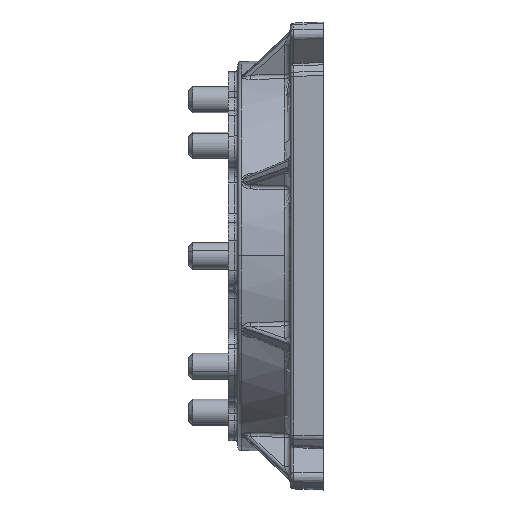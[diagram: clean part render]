
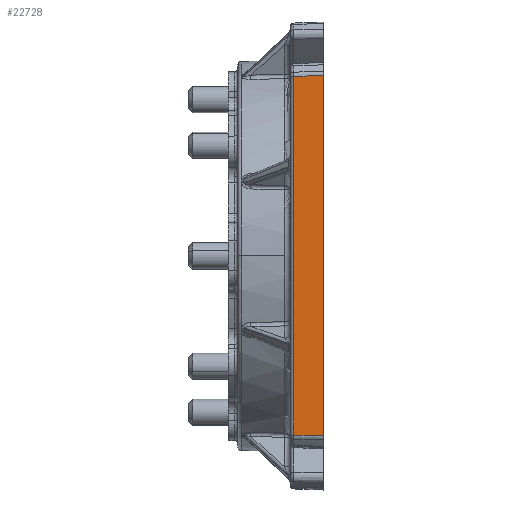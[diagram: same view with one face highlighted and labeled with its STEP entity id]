
A CAD part, top view. The second image highlights one B-rep face of the part: STEP entity #22728.
In plain terms, the highlighted planar face has unit normal (-0.035, 0, 0.999).
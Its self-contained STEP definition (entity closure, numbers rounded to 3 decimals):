
#2210 = VERTEX_POINT ( 'NONE', #26020 ) ;
#2669 = B_SPLINE_CURVE_WITH_KNOTS ( 'NONE', 3,
 ( #32143, #5697, #36137, #18693, #11755, #38825, #19352 ),
 .UNSPECIFIED., .F., .F.,
 ( 4, 3, 4 ),
 ( 0.001, 0.005, 0.01 ),
 .UNSPECIFIED. ) ;
#3060 = PLANE ( 'NONE',  #29265 ) ;
#5697 = CARTESIAN_POINT ( 'NONE',  ( 28.372, 54.591, 70.926 ) ) ;
#9106 = VERTEX_POINT ( 'NONE', #39864 ) ;
#11601 = LINE ( 'NONE', #22102, #16336 ) ;
#11755 = CARTESIAN_POINT ( 'NONE',  ( 23.982, 54.538, 70.772 ) ) ;
#12683 = CARTESIAN_POINT ( 'NONE',  ( 20.715, -54.498, 70.658 ) ) ;
#12908 = CARTESIAN_POINT ( 'NONE',  ( 29.75, 54.608, 70.974 ) ) ;
#13781 = DIRECTION ( 'NONE',  ( 0.035, 0., -0.999 ) ) ;
#14805 = EDGE_CURVE ( 'NONE', #9106, #2210, #16486, .T. ) ;
#14830 = CARTESIAN_POINT ( 'NONE',  ( 29.75, -72.778, 70.974 ) ) ;
#15369 = CARTESIAN_POINT ( 'NONE',  ( 23.982, -54.538, 70.772 ) ) ;
#15448 = EDGE_LOOP ( 'NONE', ( #34030, #43067, #22789, #21007 ) ) ;
#15707 = VECTOR ( 'NONE', #32092, 1000. ) ;
#16336 = VECTOR ( 'NONE', #35976, 1000. ) ;
#16486 = B_SPLINE_CURVE_WITH_KNOTS ( 'NONE', 3,
 ( #12683, #36620, #15369, #26338, #29056, #33285, #19179 ),
 .UNSPECIFIED., .F., .F.,
 ( 4, 3, 4 ),
 ( 0., 0.005, 0.009 ),
 .UNSPECIFIED. ) ;
#18693 = CARTESIAN_POINT ( 'NONE',  ( 25.616, 54.558, 70.829 ) ) ;
#19179 = CARTESIAN_POINT ( 'NONE',  ( 29.75, -54.608, 70.974 ) ) ;
#19352 = CARTESIAN_POINT ( 'NONE',  ( 20.715, 54.498, 70.658 ) ) ;
#21007 = ORIENTED_EDGE ( 'NONE', *, *, #14805, .T. ) ;
#21538 = EDGE_CURVE ( 'NONE', #36254, #9106, #11601, .T. ) ;
#21765 = VERTEX_POINT ( 'NONE', #12908 ) ;
#22102 = CARTESIAN_POINT ( 'NONE',  ( 20.715, -72.778, 70.658 ) ) ;
#22728 = ADVANCED_FACE ( 'NONE', ( #33531 ), #3060, .F. ) ;
#22789 = ORIENTED_EDGE ( 'NONE', *, *, #21538, .T. ) ;
#26020 = CARTESIAN_POINT ( 'NONE',  ( 29.75, -54.608, 70.974 ) ) ;
#26338 = CARTESIAN_POINT ( 'NONE',  ( 25.616, -54.558, 70.829 ) ) ;
#27460 = DIRECTION ( 'NONE',  ( -0.999, 0., -0.035 ) ) ;
#28059 = EDGE_CURVE ( 'NONE', #21765, #36254, #2669, .T. ) ;
#29056 = CARTESIAN_POINT ( 'NONE',  ( 26.994, -54.575, 70.878 ) ) ;
#29265 = AXIS2_PLACEMENT_3D ( 'NONE', #30185, #13781, #27460 ) ;
#30185 = CARTESIAN_POINT ( 'NONE',  ( 30.5, -72.778, 71. ) ) ;
#31639 = LINE ( 'NONE', #14830, #15707 ) ;
#32092 = DIRECTION ( 'NONE',  ( 0., -1., 0. ) ) ;
#32143 = CARTESIAN_POINT ( 'NONE',  ( 29.75, 54.608, 70.974 ) ) ;
#33285 = CARTESIAN_POINT ( 'NONE',  ( 28.372, -54.591, 70.926 ) ) ;
#33531 = FACE_OUTER_BOUND ( 'NONE', #15448, .T. ) ;
#34030 = ORIENTED_EDGE ( 'NONE', *, *, #37516, .F. ) ;
#35976 = DIRECTION ( 'NONE',  ( 0., -1., 0. ) ) ;
#36137 = CARTESIAN_POINT ( 'NONE',  ( 26.994, 54.575, 70.878 ) ) ;
#36254 = VERTEX_POINT ( 'NONE', #38348 ) ;
#36620 = CARTESIAN_POINT ( 'NONE',  ( 22.349, -54.518, 70.715 ) ) ;
#37516 = EDGE_CURVE ( 'NONE', #21765, #2210, #31639, .T. ) ;
#38348 = CARTESIAN_POINT ( 'NONE',  ( 20.715, 54.498, 70.658 ) ) ;
#38825 = CARTESIAN_POINT ( 'NONE',  ( 22.349, 54.518, 70.715 ) ) ;
#39864 = CARTESIAN_POINT ( 'NONE',  ( 20.715, -54.498, 70.658 ) ) ;
#43067 = ORIENTED_EDGE ( 'NONE', *, *, #28059, .T. ) ;
